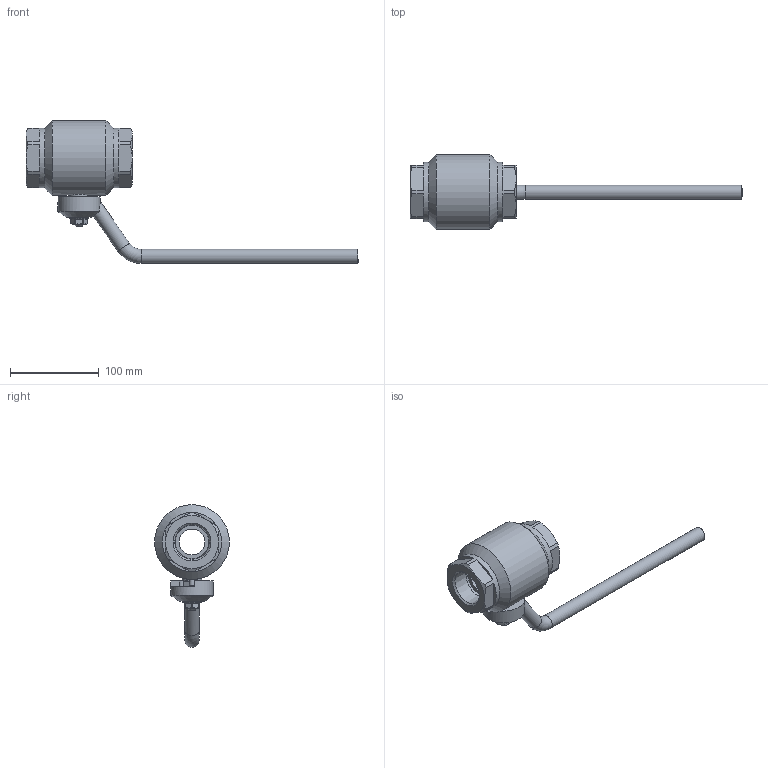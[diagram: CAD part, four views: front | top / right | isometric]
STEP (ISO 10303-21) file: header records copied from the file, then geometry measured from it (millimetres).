
FILE_DESCRIPTION(('STEP AP203'), '1');
FILE_NAME('ZARD 032.250.10.P.stp', '2013-12-06T06:09:45', ('Øèøêî'), ('Ýíåðïðåä ßðäîñ'), 'ASCON STEP Converter 1.3', 'Kompas 3D', '');
FILE_SCHEMA(('CONFIG_CONTROL_DESIGN','SUPPORT_RESOURCE_SCHEMA'));
Length unit declared in the file: millimetre
Products named in the file (1): 43
Bounding box: 375.01 x 84.5 x 161.25 mm (x, y, z)
Volume: 455049.4 mm3; surface area: 97105.2 mm2
Topology: 1 solids, 8 shells, 194 faces, 436 edges, 274 vertices
Faces by surface type: plane 102, cylinder 51, cone 33, torus 8
Full cylindrical faces by diameter (mm): 6 x2, 10 x2, 16 x3, 16.1 x1, 21.8 x1, 22 x2, 24 x1, 24.3 x1, 24.5 x1, 29 x2, 37.758 x2, 48 x1, 50 x2, 58.4 x1, 67 x2, 84.5 x1
Entity records: 7308 total; most frequent: CARTESIAN_POINT 2859, DIRECTION 938, ORIENTED_EDGE 872, EDGE_CURVE 436, AXIS2_PLACEMENT_3D 372, VERTEX_POINT 274, EDGE_LOOP 220, ADVANCED_FACE 194
